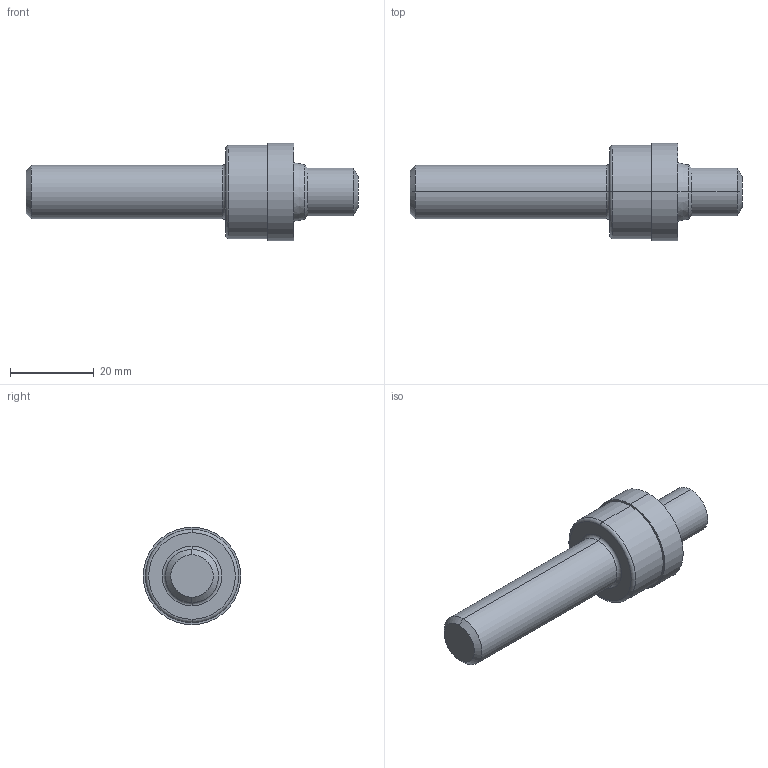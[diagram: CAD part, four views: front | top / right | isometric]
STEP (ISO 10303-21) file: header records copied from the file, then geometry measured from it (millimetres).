
FILE_DESCRIPTION (( 'STEP AP214' ), '1' );
FILE_NAME ('MS16142-5R.STEP', '2018-07-13T17:09:40', ( '' ), ( '' ), 'SwSTEP 2.0', 'SolidWorks 2018', '' );
FILE_SCHEMA (( 'AUTOMOTIVE_DESIGN' ));
Length unit declared in the file: inch
Products named in the file (1): MS16142-5R
Bounding box: 79.25 x 23.27 x 23.27 mm (x, y, z)
Volume: 14199.9 mm3; surface area: 4339.4 mm2
Topology: 1 solids, 1 shells, 25 faces, 48 edges, 28 vertices
Faces by surface type: cone 8, cylinder 8, plane 5, torus 4
Entity records: 678 total; most frequent: DIRECTION 132, CARTESIAN_POINT 102, ORIENTED_EDGE 96, AXIS2_PLACEMENT_3D 58, EDGE_CURVE 48, CIRCLE 32, VERTEX_POINT 28, EDGE_LOOP 28
